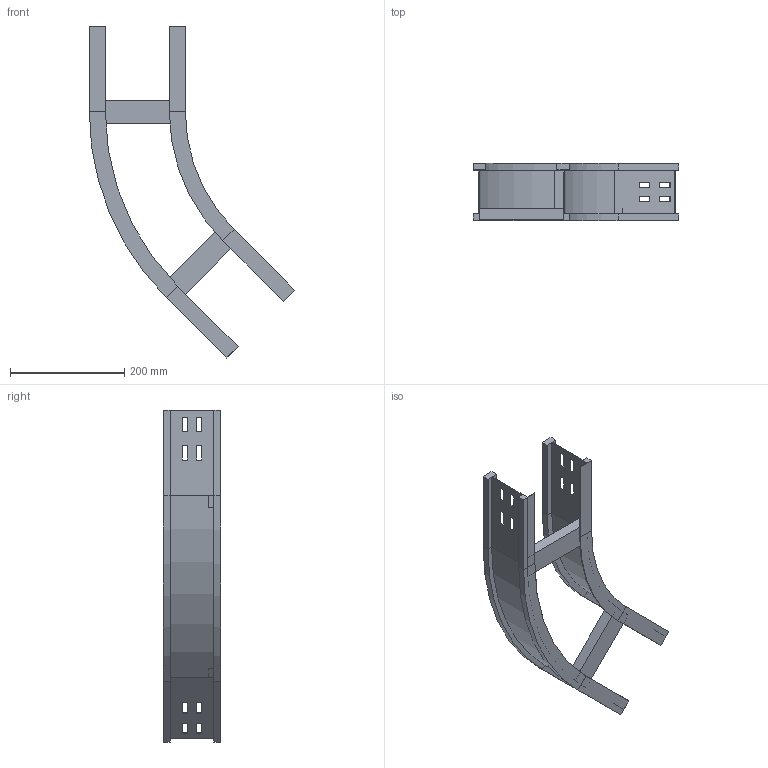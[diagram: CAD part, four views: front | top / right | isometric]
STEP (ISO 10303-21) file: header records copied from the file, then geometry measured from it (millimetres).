
FILE_DESCRIPTION (( 'STEP AP214' ), '1' );
FILE_NAME ('11S3D150.step', '2025-02-21T16:02:58', ( '' ), ( '' ), 'SwSTEP 2.0', 'SolidWorks 2023', '' );
FILE_SCHEMA (( 'AUTOMOTIVE_DESIGN' ));
Length unit declared in the file: millimetre
Products named in the file (4): 11S3D150; LONGH.INTERNO 45°_H100_R300; LONGH.ESTERNO 45°_H100_R300+150; TRAVERSINO_150
Assembly tree (4 placements, depth 2):
  11S3D150
    LONGH.INTERNO 45°_H100_R300
    LONGH.ESTERNO 45°_H100_R300+150
    TRAVERSINO_150  x2
Bounding box: 359.3 x 100 x 580.63 mm (x, y, z)
Volume: 863233 mm3; surface area: 388514.4 mm2
Topology: 4 solids, 4 shells, 152 faces, 384 edges, 240 vertices
Faces by surface type: plane 140, cylinder 12
Entity records: 4469 total; most frequent: CARTESIAN_POINT 757, ORIENTED_EDGE 744, DIRECTION 702, EDGE_CURVE 372, LINE 348, VECTOR 348, VERTEX_POINT 232, EDGE_LOOP 178
